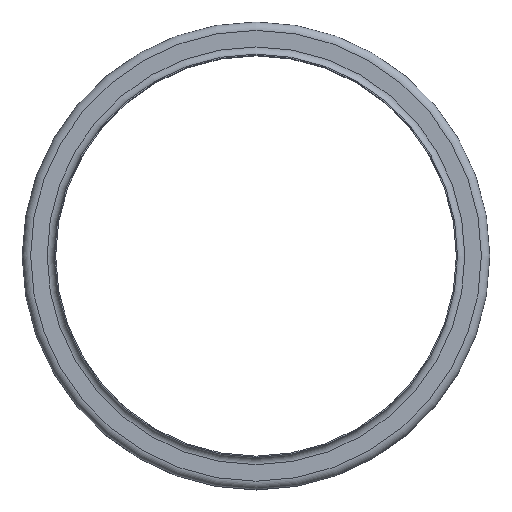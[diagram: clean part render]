
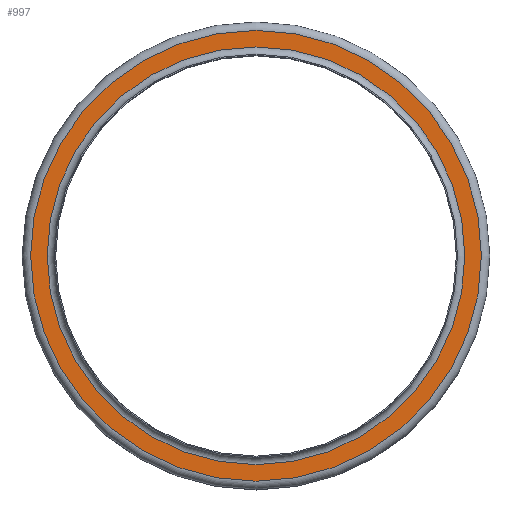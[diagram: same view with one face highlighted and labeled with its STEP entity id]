
A CAD part, top view. The second image highlights one B-rep face of the part: STEP entity #997.
In plain terms, the highlighted planar face has unit normal (0, 0, 1).
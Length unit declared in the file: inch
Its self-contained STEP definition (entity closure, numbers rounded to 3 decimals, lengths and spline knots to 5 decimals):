
#95=FACE_BOUND('',#269,.T.);
#162=FACE_OUTER_BOUND('',#268,.T.);
#268=EDGE_LOOP('',(#769));
#269=EDGE_LOOP('',(#770));
#382=CIRCLE('',#1186,6.643);
#383=CIRCLE('',#1188,7.1695);
#463=VERTEX_POINT('',#1810);
#464=VERTEX_POINT('',#1814);
#568=EDGE_CURVE('',#463,#463,#382,.T.);
#569=EDGE_CURVE('',#464,#464,#383,.T.);
#769=ORIENTED_EDGE('',*,*,#569,.F.);
#770=ORIENTED_EDGE('',*,*,#568,.T.);
#851=PLANE('',#1187);
#997=ADVANCED_FACE('',(#162,#95),#851,.T.);
#1186=AXIS2_PLACEMENT_3D('',#1812,#1522,#1523);
#1187=AXIS2_PLACEMENT_3D('',#1813,#1524,#1525);
#1188=AXIS2_PLACEMENT_3D('',#1815,#1526,#1527);
#1522=DIRECTION('center_axis',(0.,0.,-1.));
#1523=DIRECTION('ref_axis',(1.,0.,0.));
#1524=DIRECTION('center_axis',(0.,0.,1.));
#1525=DIRECTION('ref_axis',(1.,0.,0.));
#1526=DIRECTION('center_axis',(0.,0.,-1.));
#1527=DIRECTION('ref_axis',(1.,0.,0.));
#1810=CARTESIAN_POINT('',(6.643,0.,-0.232));
#1812=CARTESIAN_POINT('Origin',(0.,0.,-0.232));
#1813=CARTESIAN_POINT('Origin',(0.,7.1695,-0.232));
#1814=CARTESIAN_POINT('',(7.1695,0.,-0.232));
#1815=CARTESIAN_POINT('Origin',(0.,0.,-0.232));
